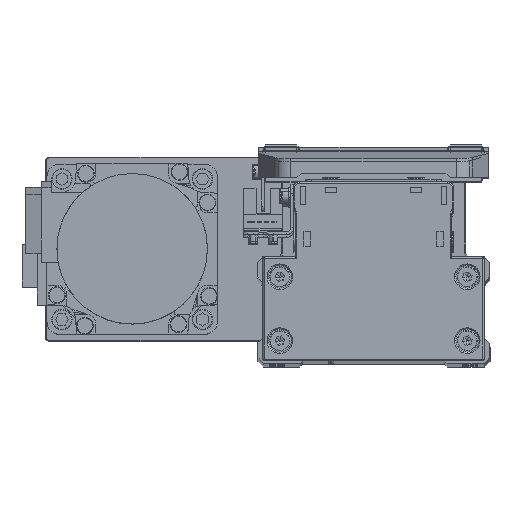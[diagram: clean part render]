
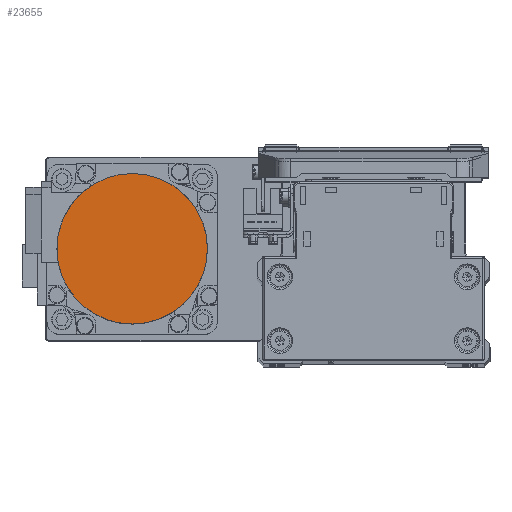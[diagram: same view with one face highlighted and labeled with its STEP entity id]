
A CAD part, top view. The second image highlights one B-rep face of the part: STEP entity #23655.
In plain terms, the highlighted planar face has unit normal (0, 0, 1) as drawn and (0, 0, -1) by its records, which use the part's own axes.
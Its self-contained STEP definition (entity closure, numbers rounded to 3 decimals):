
#1932 = DIRECTION ( 'NONE',  ( 0., 0., 1. ) ) ;
#2128 = EDGE_CURVE ( 'NONE', #12913, #26254, #24402, .T. ) ;
#2396 = DIRECTION ( 'NONE',  ( 1., 0., 0. ) ) ;
#3682 = CARTESIAN_POINT ( 'NONE',  ( -26.5, 0., -109.7 ) ) ;
#5044 = FACE_OUTER_BOUND ( 'NONE', #9226, .T. ) ;
#6548 = AXIS2_PLACEMENT_3D ( 'NONE', #18165, #30810, #2396 ) ;
#9226 = EDGE_LOOP ( 'NONE', ( #29137, #24230 ) ) ;
#12233 = DIRECTION ( 'NONE',  ( 0., 0., 1. ) ) ;
#12618 = AXIS2_PLACEMENT_3D ( 'NONE', #30342, #1932, #14584 ) ;
#12913 = VERTEX_POINT ( 'NONE', #22274 ) ;
#13636 = CIRCLE ( 'NONE', #36810, 26.5 ) ;
#14584 = DIRECTION ( 'NONE',  ( 1., 0., 0. ) ) ;
#17686 = PLANE ( 'NONE',  #12618 ) ;
#18165 = CARTESIAN_POINT ( 'NONE',  ( 0., 0., -109.7 ) ) ;
#22274 = CARTESIAN_POINT ( 'NONE',  ( 26.5, 0., -109.7 ) ) ;
#23655 = ADVANCED_FACE ( 'NONE', ( #5044 ), #17686, .F. ) ;
#24230 = ORIENTED_EDGE ( 'NONE', *, *, #2128, .F. ) ;
#24402 = CIRCLE ( 'NONE', #6548, 26.5 ) ;
#24876 = DIRECTION ( 'NONE',  ( -1., 0., 0. ) ) ;
#26254 = VERTEX_POINT ( 'NONE', #3682 ) ;
#29137 = ORIENTED_EDGE ( 'NONE', *, *, #37418, .F. ) ;
#30342 = CARTESIAN_POINT ( 'NONE',  ( 0., 0., -109.7 ) ) ;
#30810 = DIRECTION ( 'NONE',  ( 0., 0., 1. ) ) ;
#36810 = AXIS2_PLACEMENT_3D ( 'NONE', #40658, #12233, #24876 ) ;
#37418 = EDGE_CURVE ( 'NONE', #26254, #12913, #13636, .T. ) ;
#40658 = CARTESIAN_POINT ( 'NONE',  ( 0., 0., -109.7 ) ) ;
